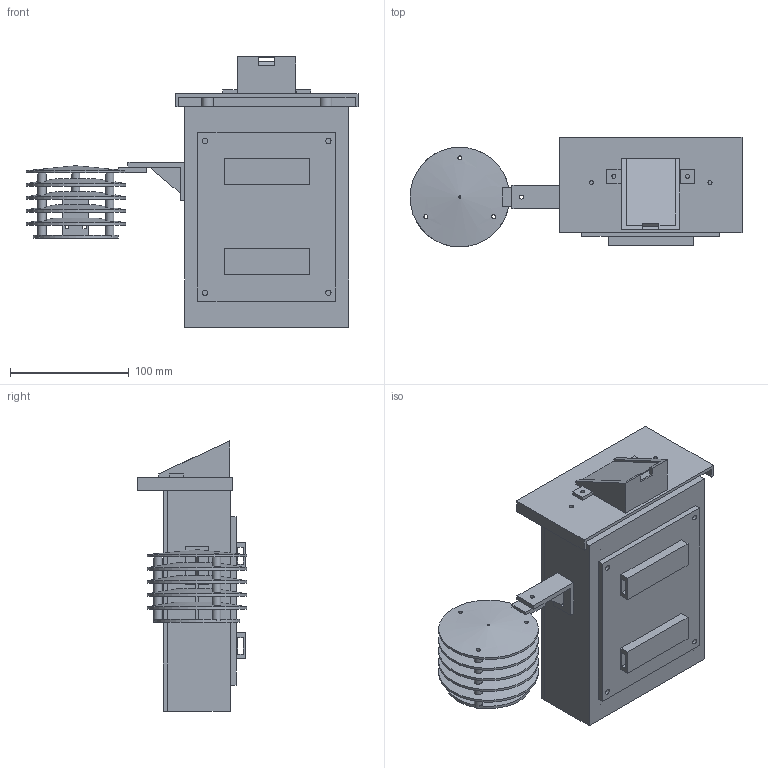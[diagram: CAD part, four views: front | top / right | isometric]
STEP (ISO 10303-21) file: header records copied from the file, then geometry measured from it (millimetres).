
FILE_DESCRIPTION(('Open CASCADE Model'),'2;1');
FILE_NAME('Open CASCADE Shape Model','2026-10-18T06:41:10',('Author'),( 'Open CASCADE'),'Open CASCADE STEP processor 7.9','Open CASCADE 7.9' ,'Unknown');
FILE_SCHEMA(('AUTOMOTIVE_DESIGN { 1 0 10303 214 1 1 1 1 }'));
Length unit declared in the file: millimetre
Products named in the file (19): falcon_node; 01_shell; 02_front_cover; 03_electronics_tray; 04_roof_hood; 05_rain_plate_cradle; 10_pole_mount_plate; shield_arm; shield_cap; shield_plate_1; shield_plate_2; shield_plate_3; shield_plate_4; shield_sensor_carrier; ref_pi4; ref_hat; ref_splitter; ref_rain_controller; ref_camera
Assembly tree (18 placements, depth 2):
  falcon_node
    01_shell
    02_front_cover
    03_electronics_tray
    04_roof_hood
    05_rain_plate_cradle
    10_pole_mount_plate
    shield_arm
    shield_cap
    shield_plate_1
    shield_plate_2
    shield_plate_3
    shield_plate_4
    shield_sensor_carrier
    ref_pi4
    ref_hat
    ref_splitter
    ref_rain_controller
    ref_camera
Bounding box: 280 x 92.5 x 227.91 mm (x, y, z)
Volume: 755665.5 mm3; surface area: 421744.4 mm2
Topology: 20 solids, 20 shells, 601 faces, 1535 edges, 1018 vertices
Faces by surface type: plane 426, cylinder 170, cone 5
Full cylindrical faces by diameter (mm): 1.8 x4, 2 x38, 3.4 x42, 3.6 x4, 4.2 x10, 4.5 x12, 5.75 x1, 6.5 x4, 7 x15, 8 x4, 10 x2, 12.5 x2, 16 x1, 20.5 x2, 28.4 x1, 30 x1, 34 x5, 84 x4
Entity records: 46158 total; most frequent: CARTESIAN_POINT 13639, DIRECTION 6049, LINE 3883, VECTOR 3883, ORIENTED_EDGE 3070, PCURVE 3070, DEFINITIONAL_REPRESENTATION 3070, EDGE_CURVE 1535
